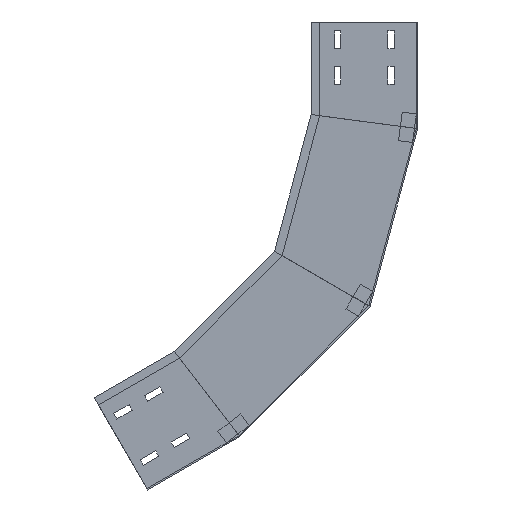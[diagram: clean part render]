
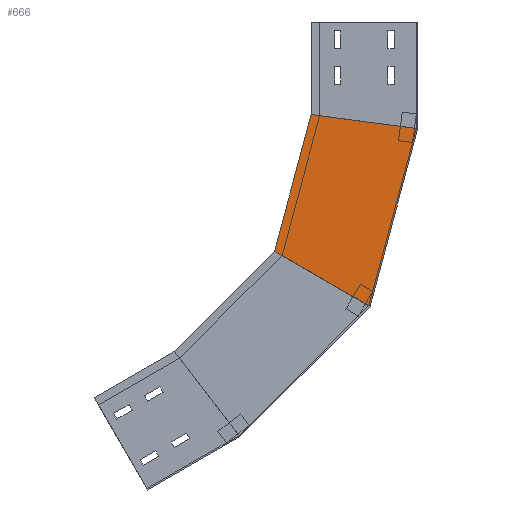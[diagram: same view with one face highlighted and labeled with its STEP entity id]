
A CAD part, left-side view. The second image highlights one B-rep face of the part: STEP entity #666.
In plain terms, the highlighted planar face has unit normal (-1, 0, 0) as drawn and (1, 0, 0) by its records, which use the part's own axes.
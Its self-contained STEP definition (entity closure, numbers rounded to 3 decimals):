
#5 = CARTESIAN_POINT ( 'NONE',  ( 0., 67.034, -400.175 ) ) ;
#7 = VERTEX_POINT ( 'NONE', #1090 ) ;
#120 = CARTESIAN_POINT ( 'NONE',  ( 0., 250.175, -583.315 ) ) ;
#364 = DIRECTION ( 'NONE',  ( 0., 0.707, -0.707 ) ) ;
#407 = DIRECTION ( 'NONE',  ( 0., -0.609, -0.793 ) ) ;
#430 = VECTOR ( 'NONE', #364, 1000. ) ;
#485 = CARTESIAN_POINT ( 'NONE',  ( 0., 173.1, -294.109 ) ) ;
#561 = ORIENTED_EDGE ( 'NONE', *, *, #2086, .F. ) ;
#595 = LINE ( 'NONE', #605, #1512 ) ;
#605 = CARTESIAN_POINT ( 'NONE',  ( 0., 125.087, -366.658 ) ) ;
#649 = AXIS2_PLACEMENT_3D ( 'NONE', #2173, #1842, #808 ) ;
#666 = ADVANCED_FACE ( 'NONE', ( #1168 ), #1500, .F. ) ;
#707 = ORIENTED_EDGE ( 'NONE', *, *, #1440, .T. ) ;
#732 = CARTESIAN_POINT ( 'NONE',  ( 0., 270.755, -556.495 ) ) ;
#763 = DIRECTION ( 'NONE',  ( 0., -0.866, -0.5 ) ) ;
#808 = DIRECTION ( 'NONE',  ( 0., 0., 1. ) ) ;
#854 = CARTESIAN_POINT ( 'NONE',  ( 0., 342.277, -463.286 ) ) ;
#994 = EDGE_CURVE ( 'NONE', #1698, #7, #595, .T. ) ;
#1053 = EDGE_LOOP ( 'NONE', ( #1876, #1397, #707, #561 ) ) ;
#1058 = VERTEX_POINT ( 'NONE', #120 ) ;
#1090 = CARTESIAN_POINT ( 'NONE',  ( 0., 67.034, -400.175 ) ) ;
#1168 = FACE_OUTER_BOUND ( 'NONE', #1053, .T. ) ;
#1232 = EDGE_CURVE ( 'NONE', #1698, #1936, #1347, .T. ) ;
#1291 = LINE ( 'NONE', #732, #1475 ) ;
#1347 = LINE ( 'NONE', #485, #2122 ) ;
#1397 = ORIENTED_EDGE ( 'NONE', *, *, #994, .T. ) ;
#1440 = EDGE_CURVE ( 'NONE', #7, #1058, #1563, .T. ) ;
#1464 = CARTESIAN_POINT ( 'NONE',  ( 0., 201.52, -322.529 ) ) ;
#1475 = VECTOR ( 'NONE', #407, 1000. ) ;
#1500 = PLANE ( 'NONE',  #649 ) ;
#1512 = VECTOR ( 'NONE', #763, 1000. ) ;
#1563 = LINE ( 'NONE', #5, #430 ) ;
#1698 = VERTEX_POINT ( 'NONE', #1464 ) ;
#1842 = DIRECTION ( 'NONE',  ( -1., 0., 0. ) ) ;
#1876 = ORIENTED_EDGE ( 'NONE', *, *, #1232, .F. ) ;
#1936 = VERTEX_POINT ( 'NONE', #854 ) ;
#1963 = DIRECTION ( 'NONE',  ( 0., 0.707, -0.707 ) ) ;
#2086 = EDGE_CURVE ( 'NONE', #1936, #1058, #1291, .T. ) ;
#2122 = VECTOR ( 'NONE', #1963, 1000. ) ;
#2173 = CARTESIAN_POINT ( 'NONE',  ( 0., 67.034, -400.175 ) ) ;
